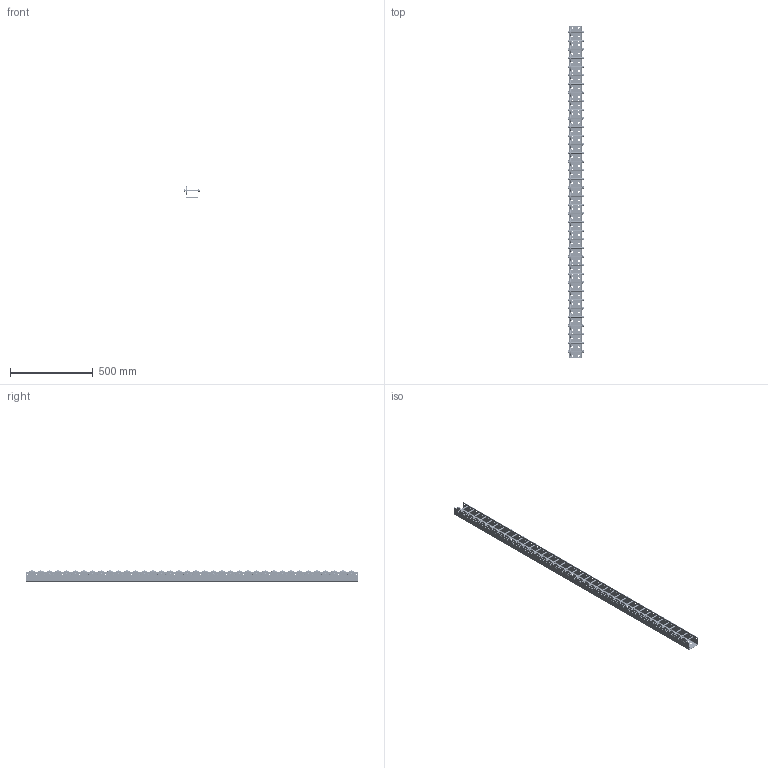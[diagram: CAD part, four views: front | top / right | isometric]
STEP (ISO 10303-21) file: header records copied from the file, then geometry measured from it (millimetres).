
FILE_DESCRIPTION( ( 'Unknown' ), '1' );
FILE_NAME( 'D:/Construktor/Listwy rolkowe 2015/Listwa T715/Listwa T715.stp', 'Unknown', ( 'Unknown' ), ( 'Unknown' ), 'PSStep 17.0.49', 'Unknown', ' ' );
FILE_SCHEMA( ( 'AUTOMOTIVE_DESIGN { 1 0 10303 214 1 1 1 1 }' ) );
Length unit declared in the file: millimetre
Products named in the file (8): Rolka 730; kapsel; Assem1; Ceownik T720; Bolt_DIN_931_M8; Bolt_DIN_931_M8-oa0; Bolt_DIN_931_M8-oa1; Nut_DIN_982_M8_v10.50
Assembly tree (116 placements, depth 3):
  Assem1
    Ceownik T720
    Bolt_DIN_931_M8  x36
    Bolt_DIN_931_M8-oa0
    Bolt_DIN_931_M8-oa1
    Nut_DIN_982_M8_v10.50  x38
    Rolka 730  x38
      kapsel
Bounding box: 95.3 x 2000 x 67 mm (x, y, z)
Volume: 1387205.4 mm3; surface area: 1086131.7 mm2
Topology: 115 solids, 115 shells, 2716 faces, 6054 edges, 3910 vertices
Faces by surface type: plane 1036, cylinder 806, cone 722, torus 152
Full cylindrical faces by diameter (mm): 6.466 x38, 6.647 x38, 6.697 x38, 8 x114, 8.2 x154, 9 x38, 10.2 x154, 11.63 x38, 12.5 x38, 47 x76, 47.619 x38, 50 x38
Entity records: 18266 total; most frequent: DIRECTION 2580, CARTESIAN_POINT 2523, ORIENTED_EDGE 1668, EDGE_LOOP 1414, AXIS2_PLACEMENT_3D 1255, EDGE_CURVE 834, VERTEX_POINT 774, FACE_OUTER_BOUND 768
